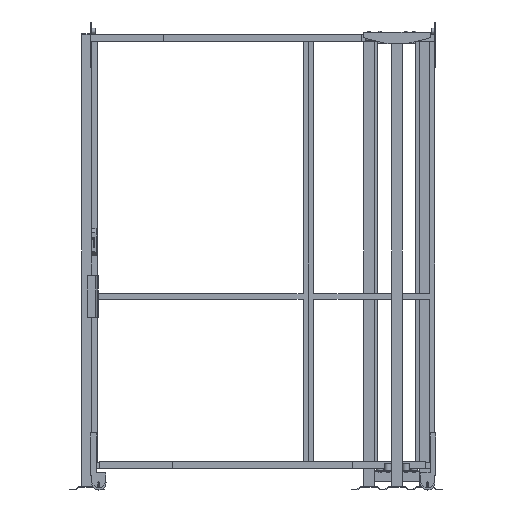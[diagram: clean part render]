
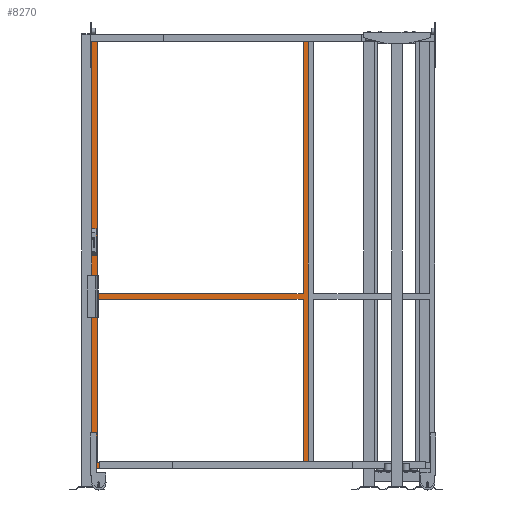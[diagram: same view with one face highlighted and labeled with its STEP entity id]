
A CAD part, front view. The second image highlights one B-rep face of the part: STEP entity #8270.
In plain terms, the highlighted planar face has unit normal (0, -1, 0).
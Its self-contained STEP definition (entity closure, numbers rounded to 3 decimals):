
#926=FACE_BOUND('',#1399,.T.);
#927=FACE_BOUND('',#1400,.T.);
#983=FACE_OUTER_BOUND('',#1398,.T.);
#1398=EDGE_LOOP('',(#5932,#5933,#5934,#5935));
#1399=EDGE_LOOP('',(#5936,#5937,#5938,#5939));
#1400=EDGE_LOOP('',(#5940,#5941,#5942,#5943));
#1929=LINE('',#11766,#3029);
#1935=LINE('',#11778,#3035);
#1936=LINE('',#11781,#3036);
#1939=LINE('',#11788,#3039);
#1940=LINE('',#11790,#3040);
#1941=LINE('',#11792,#3041);
#1942=LINE('',#11793,#3042);
#1943=LINE('',#11795,#3043);
#1944=LINE('',#11797,#3044);
#1945=LINE('',#11798,#3045);
#1946=LINE('',#11800,#3046);
#1947=LINE('',#11801,#3047);
#3029=VECTOR('',#9403,1.);
#3035=VECTOR('',#9411,1.);
#3036=VECTOR('',#9414,1.);
#3039=VECTOR('',#9419,1.);
#3040=VECTOR('',#9420,1.);
#3041=VECTOR('',#9421,1.);
#3042=VECTOR('',#9422,1.);
#3043=VECTOR('',#9423,1.);
#3044=VECTOR('',#9424,1.);
#3045=VECTOR('',#9425,1.);
#3046=VECTOR('',#9426,1.);
#3047=VECTOR('',#9427,1.);
#4056=VERTEX_POINT('',#11762);
#4058=VERTEX_POINT('',#11765);
#4061=VERTEX_POINT('',#11772);
#4063=VERTEX_POINT('',#11776);
#4064=VERTEX_POINT('',#11780);
#4066=VERTEX_POINT('',#11786);
#4067=VERTEX_POINT('',#11787);
#4068=VERTEX_POINT('',#11789);
#4069=VERTEX_POINT('',#11791);
#4070=VERTEX_POINT('',#11794);
#4071=VERTEX_POINT('',#11796);
#4072=VERTEX_POINT('',#11799);
#4819=EDGE_CURVE('',#4056,#4058,#1929,.T.);
#4825=EDGE_CURVE('',#4063,#4061,#1935,.T.);
#4826=EDGE_CURVE('',#4064,#4061,#1936,.T.);
#4829=EDGE_CURVE('',#4066,#4067,#1939,.T.);
#4830=EDGE_CURVE('',#4068,#4067,#1940,.T.);
#4831=EDGE_CURVE('',#4069,#4068,#1941,.T.);
#4832=EDGE_CURVE('',#4066,#4069,#1942,.T.);
#4833=EDGE_CURVE('',#4056,#4070,#1943,.T.);
#4834=EDGE_CURVE('',#4070,#4071,#1944,.T.);
#4835=EDGE_CURVE('',#4071,#4058,#1945,.T.);
#4836=EDGE_CURVE('',#4063,#4072,#1946,.T.);
#4837=EDGE_CURVE('',#4072,#4064,#1947,.T.);
#5932=ORIENTED_EDGE('',*,*,#4829,.T.);
#5933=ORIENTED_EDGE('',*,*,#4830,.F.);
#5934=ORIENTED_EDGE('',*,*,#4831,.F.);
#5935=ORIENTED_EDGE('',*,*,#4832,.F.);
#5936=ORIENTED_EDGE('',*,*,#4833,.T.);
#5937=ORIENTED_EDGE('',*,*,#4834,.T.);
#5938=ORIENTED_EDGE('',*,*,#4835,.T.);
#5939=ORIENTED_EDGE('',*,*,#4819,.F.);
#5940=ORIENTED_EDGE('',*,*,#4825,.F.);
#5941=ORIENTED_EDGE('',*,*,#4836,.T.);
#5942=ORIENTED_EDGE('',*,*,#4837,.T.);
#5943=ORIENTED_EDGE('',*,*,#4826,.T.);
#7899=PLANE('',#8723);
#8270=ADVANCED_FACE('',(#983,#926,#927),#7899,.F.);
#8723=AXIS2_PLACEMENT_3D('',#11785,#9417,#9418);
#9403=DIRECTION('',(1.,0.,0.));
#9411=DIRECTION('',(-1.,0.,0.));
#9414=DIRECTION('',(0.,0.,1.));
#9417=DIRECTION('center_axis',(0.,1.,0.));
#9418=DIRECTION('ref_axis',(0.,0.,1.));
#9419=DIRECTION('',(0.,0.,-1.));
#9420=DIRECTION('',(-1.,0.,0.));
#9421=DIRECTION('',(0.,0.,-1.));
#9422=DIRECTION('',(1.,0.,0.));
#9423=DIRECTION('',(0.,0.,1.));
#9424=DIRECTION('',(1.,0.,0.));
#9425=DIRECTION('',(0.,0.,-1.));
#9426=DIRECTION('',(0.,0.,-1.));
#9427=DIRECTION('',(-1.,0.,0.));
#11762=CARTESIAN_POINT('',(30.,0.,965.));
#11765=CARTESIAN_POINT('',(1170.,0.,965.));
#11766=CARTESIAN_POINT('',(600.,0.,965.));
#11772=CARTESIAN_POINT('',(30.,0.,935.));
#11776=CARTESIAN_POINT('',(1170.,0.,935.));
#11778=CARTESIAN_POINT('',(600.,0.,935.));
#11780=CARTESIAN_POINT('',(30.,0.,30.));
#11781=CARTESIAN_POINT('',(30.,0.,1200.));
#11785=CARTESIAN_POINT('Origin',(600.,0.,1200.));
#11786=CARTESIAN_POINT('',(0.,0.,2400.));
#11787=CARTESIAN_POINT('',(0.,0.,0.));
#11788=CARTESIAN_POINT('',(0.,0.,1200.));
#11789=CARTESIAN_POINT('',(1200.,0.,0.));
#11790=CARTESIAN_POINT('',(600.,0.,0.));
#11791=CARTESIAN_POINT('',(1200.,0.,2400.));
#11792=CARTESIAN_POINT('',(1200.,0.,1200.));
#11793=CARTESIAN_POINT('',(600.,0.,2400.));
#11794=CARTESIAN_POINT('',(30.,0.,2370.));
#11795=CARTESIAN_POINT('',(30.,0.,1200.));
#11796=CARTESIAN_POINT('',(1170.,0.,2370.));
#11797=CARTESIAN_POINT('',(600.,0.,2370.));
#11798=CARTESIAN_POINT('',(1170.,0.,1200.));
#11799=CARTESIAN_POINT('',(1170.,0.,30.));
#11800=CARTESIAN_POINT('',(1170.,0.,1200.));
#11801=CARTESIAN_POINT('',(600.,0.,30.));
